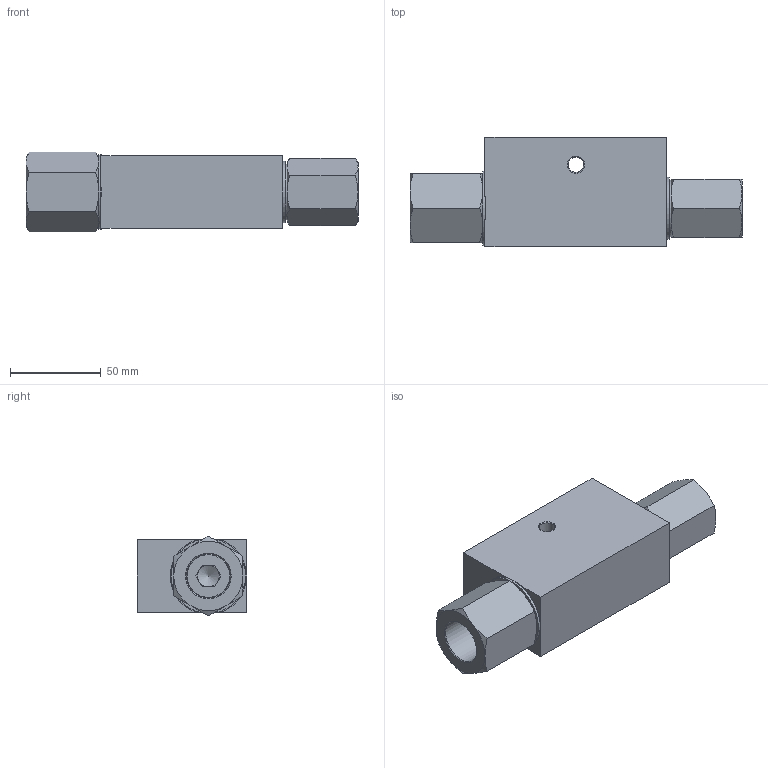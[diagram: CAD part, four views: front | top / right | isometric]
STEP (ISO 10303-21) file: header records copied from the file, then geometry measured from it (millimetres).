
FILE_DESCRIPTION(/* description */ (''),/* implementation_level */ '2;1');
FILE_NAME(/* name */ 'C:\Users\fabio.radici\Desktop\x fede\003-029-0J0_Shrinkwrap.stp',/* time_stamp */ '2021-03-30T17:57:11+02:00',/* author */ ('fabio.radici'),/* organization */ (''),/* preprocessor_version */ 'ST-DEVELOPER v18.1',/* originating_system */ 'Autodesk Inventor 2021',/* authorisation */ '');
FILE_SCHEMA (('AUTOMOTIVE_DESIGN { 1 0 10303 214 3 1 1 }'));
Length unit declared in the file: millimetre
Products named in the file (1): 003-029-0J0_Shrinkwrap
Bounding box: 182.5 x 60 x 43.88 mm (x, y, z)
Surface area: 52723.1 mm2 (no closed solid volume)
Topology: 0 solids, 12 shells, 95 faces, 242 edges, 154 vertices
Faces by surface type: cone 40, plane 32, cylinder 22, torus 1
Full cylindrical faces by diameter (mm): 8.5 x1, 9 x1, 12 x4, 22 x1, 24.117 x4, 30.291 x1, 31.3 x1, 33.249 x1, 34 x1, 36 x3, 41 x1
Entity records: 3301 total; most frequent: CARTESIAN_POINT 897, DIRECTION 473, ORIENTED_EDGE 430, EDGE_CURVE 240, AXIS2_PLACEMENT_3D 198, VERTEX_POINT 154, EDGE_LOOP 114, CIRCLE 100
